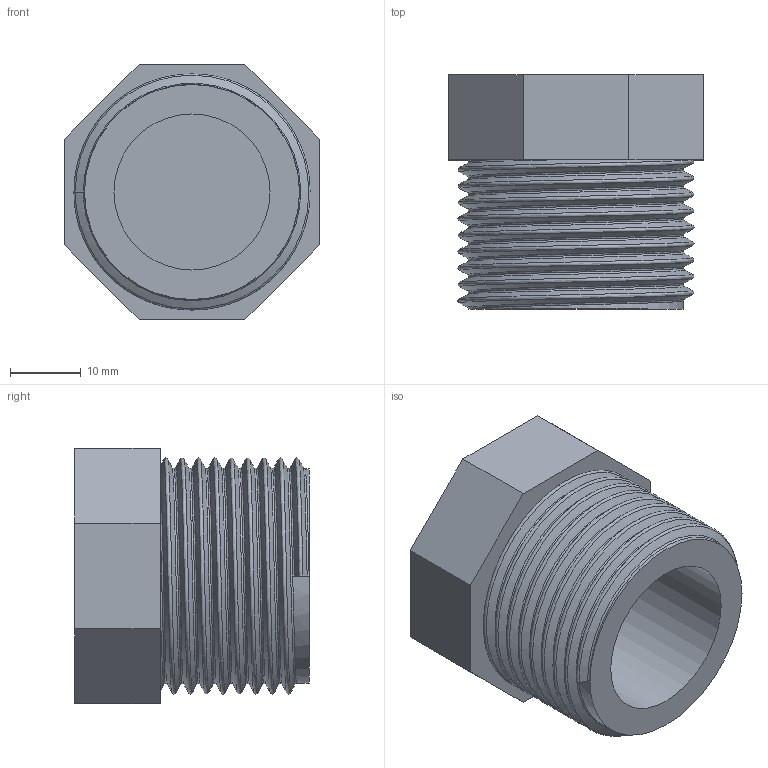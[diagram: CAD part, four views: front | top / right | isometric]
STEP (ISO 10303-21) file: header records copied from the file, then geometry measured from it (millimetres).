
FILE_DESCRIPTION(/* description */ ('PVC tappo filettato BSP maschio'),/* implementation_level */ '2;1');
FILE_NAME(/* name */ 'C:\Users\POLYPIPE\Desktop\DATASET INVENTOR\LIBRERIA EFFAST\RACCORDI 3DxWEB\RER\3D_RERTAE\3D_RERTAE032D.stp',/* time_stamp */ '2018-01-19T17:17:59+01:00',/* author */ ('POLYPIPE'),/* organization */ ('Polypipe Italia s.r.l.'),/* preprocessor_version */ 'ST-DEVELOPER v16.1',/* originating_system */ 'Autodesk Inventor 2016',/* authorisation */ '');
FILE_SCHEMA (('CONFIG_CONTROL_DESIGN'));
Length unit declared in the file: millimetre
Products named in the file (1): 3D_RERTAE
Bounding box: 36 x 33 x 36 mm (x, y, z)
Volume: 21484 mm3; surface area: 8458.5 mm2
Topology: 1 solids, 1 shells, 20 faces, 45 edges, 29 vertices
Faces by surface type: plane 13, bspline 5, cylinder 2
Full cylindrical faces by diameter (mm): 22 x1, 30.291 x1
Entity records: 4066 total; most frequent: CARTESIAN_POINT 3627, ORIENTED_EDGE 88, DIRECTION 71, EDGE_CURVE 44, VERTEX_POINT 29, LINE 27, VECTOR 27, EDGE_LOOP 23
